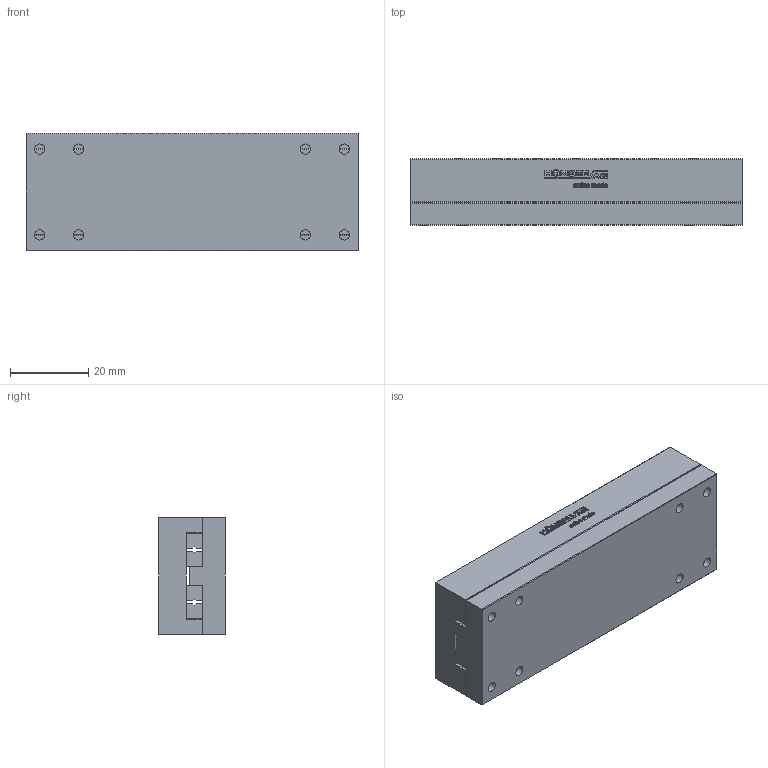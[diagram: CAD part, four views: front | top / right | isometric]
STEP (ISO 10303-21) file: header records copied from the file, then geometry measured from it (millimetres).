
FILE_DESCRIPTION(/* description */ ('STEP AP214'),/* implementation_level */ '2;1');
FILE_NAME(/* name */ 'NK 1-85-B(0)',/* time_stamp */ '2025-04-22T17:47:03+02:00',/* author */ ('License CC BY-ND 4.0'),/* organization */ ('CADENAS'),/* preprocessor_version */ 'ST-DEVELOPER v19.3',/* originating_system */ 'PARTsolutions',/* authorisation */ ' ');
FILE_SCHEMA (('AUTOMOTIVE_DESIGN {1 0 10303 214 3 1 1}'));
Length unit declared in the file: millimetre
Products named in the file (3): NK 1-85-B(0); NK 1-85-B_1; NK 1-85-B_2
Assembly tree (2 placements, depth 2):
  NK 1-85-B(0)
    NK 1-85-B_1
    NK 1-85-B_2
Bounding box: 85 x 17 x 30 mm (x, y, z)
Volume: 41521.3 mm3; surface area: 19082.6 mm2
Topology: 2 solids, 2 shells, 639 faces, 1744 edges, 1148 vertices
Faces by surface type: cylinder 322, plane 289, cone 28
Full cylindrical faces by diameter (mm): 1.567 x14, 2.6 x8, 4.1 x8
Entity records: 20251 total; most frequent: DIRECTION 3642, CARTESIAN_POINT 3476, ORIENTED_EDGE 3372, EDGE_CURVE 1686, AXIS2_PLACEMENT_3D 1314, VERTEX_POINT 1148, LINE 1014, VECTOR 1014
